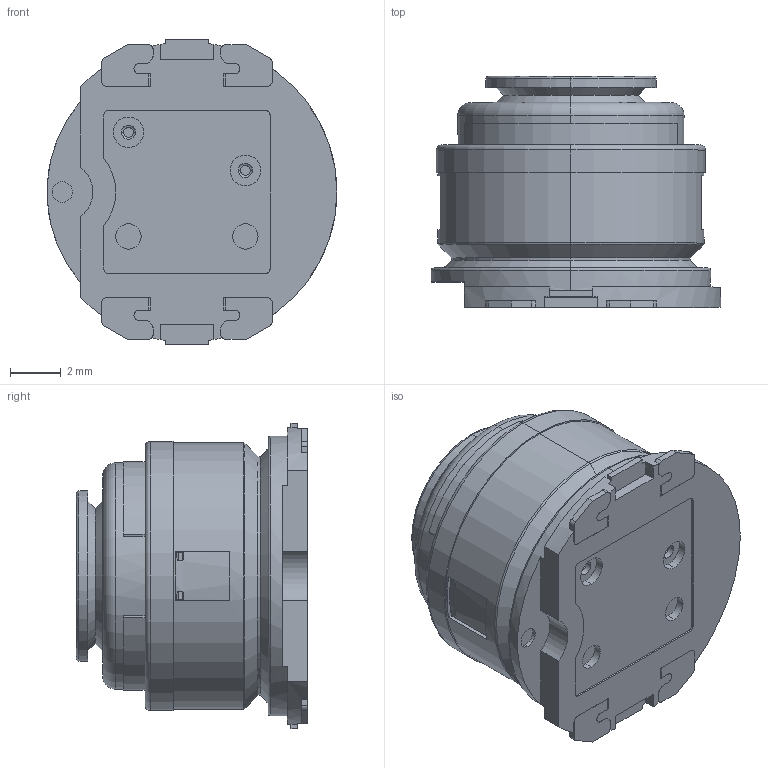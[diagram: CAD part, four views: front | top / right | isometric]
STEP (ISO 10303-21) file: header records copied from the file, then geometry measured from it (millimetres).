
FILE_DESCRIPTION(('Creo Elements/Direct Modeling STEP Export'),'2;1');
FILE_NAME('229A.stp','2013-04-07T23:09:32',(''),(''),'Creo Elements/Direct Modeling STEP processor for AP214 (Solid Model)','Creo Elements/Direct Modeling 18.1C 24-Feb-2013 (C) Parametric Technology GmbH','');
FILE_SCHEMA(('AUTOMOTIVE_DESIGN { 1 0 10303 214 1 1 1 1 }'));
Length unit declared in the file: millimetre
Products named in the file (2): 229A.prt; 229A.stp
Assembly tree (1 placements, depth 2):
  229A.stp
    229A.prt
Bounding box: 11.4 x 9.09 x 12 mm (x, y, z)
Volume: 680.4 mm3; surface area: 594.4 mm2
Topology: 1 solids, 10 shells, 281 faces, 704 edges, 461 vertices
Faces by surface type: plane 169, cylinder 89, torus 15, cone 8
Entity records: 10698 total; most frequent: CARTESIAN_POINT 1514, DIRECTION 1436, ORIENTED_EDGE 1408, EDGE_CURVE 704, AXIS2_PLACEMENT_3D 493, VERTEX_POINT 461, VECTOR 450, LINE 450
